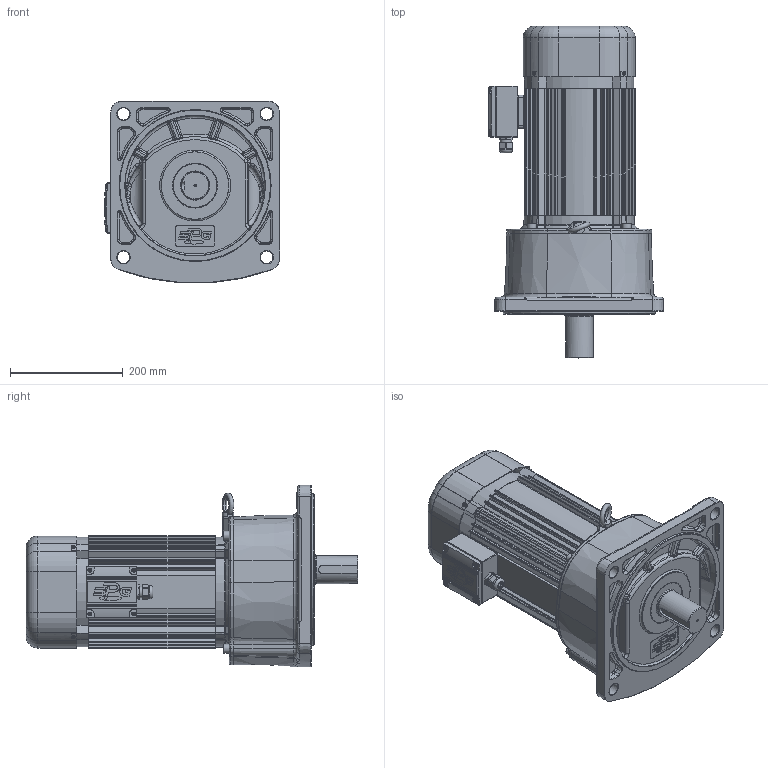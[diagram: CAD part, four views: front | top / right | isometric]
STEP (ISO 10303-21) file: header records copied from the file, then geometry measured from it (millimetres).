
FILE_DESCRIPTION(/* description */ (''),/* implementation_level */ '2;1');
FILE_NAME(/* name */ 'Z:\동력 3D 파일\PAF50_2.2kW_Brake_3D.stp',/* time_stamp */ '2021-11-08T16:18:33+09:00',/* author */ ('jaebok'),/* organization */ (''),/* preprocessor_version */ 'ST-DEVELOPER v18.1',/* originating_system */ 'Autodesk Inventor 2022',/* authorisation */ '');
FILE_SCHEMA (('AUTOMOTIVE_DESIGN { 1 0 10303 214 3 1 1 }'));
Products named in the file (1): 부품26
Bounding box: 310.96 x 589.6 x 322.89 mm (x, y, z)
Volume: 7540065.7 mm3; surface area: 1478783.9 mm2
Topology: 1 solids, 32 shells, 3853 faces, 9609 edges, 5743 vertices
Faces by surface type: plane 1127, bspline 989, cylinder 979, torus 371, cone 283, sphere 104
Full cylindrical faces by diameter (mm): 2.5 x2, 3.242 x4, 3.25 x1, 3.6 x4, 4 x21, 5 x13, 6 x5, 6.647 x5, 7 x8, 8 x4, 8.376 x4, 8.8 x1, 9 x4, 10 x5, 11 x4, 12.5 x1, 15 x1, 16 x4, 20 x2, 21 x1, 22 x4, 23.5 x1, 23.6 x1, 25 x2, 35.8 x1, 36 x2, 48 x1, 49.8 x2, 50 x2, 52 x3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
Entity records: 147861 total; most frequent: CARTESIAN_POINT 57878, ORIENTED_EDGE 18856, DIRECTION 16936, EDGE_CURVE 9428, AXIS2_PLACEMENT_3D 6889, VERTEX_POINT 5743, EDGE_LOOP 4079, CIRCLE 3905
